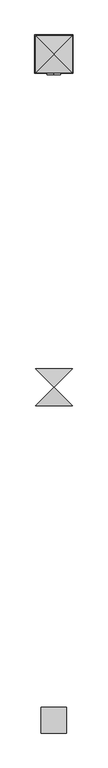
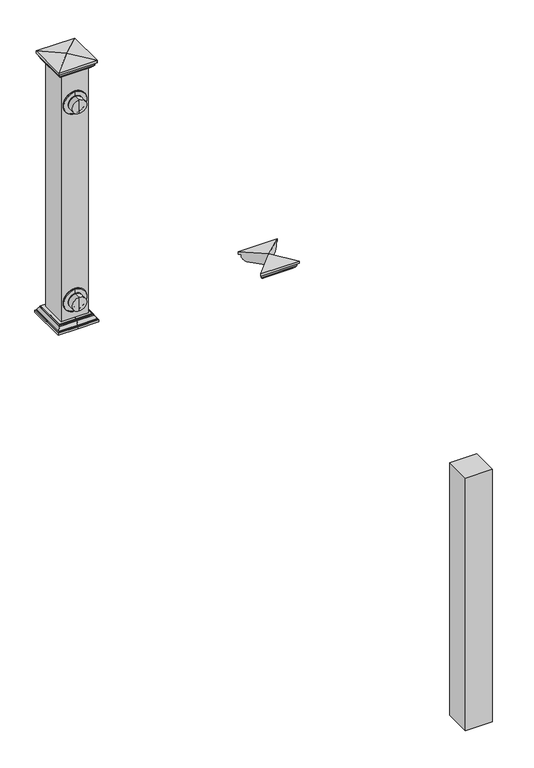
"""IFC4 building model written with IfcOpenShell, lengths in millimetres: railing geometry, RailEasy™ Nautilus Flat."""

from ifc_helpers import new_model, si_unit, point, frame, origin, place, context, project, spatial, polyline, circle_curve, ellipse_curve, trimmed, outline, extrude, source, transform, mapped, element, save
from ifc_brep_helpers import plane_surface, cylinder_surface, revolved_surface, advanced_brep


def railing_723e9c3e(model_context):
    return source(origin(), model_context, "Body", "SolidModel", [
        advanced_brep(
        [(6384.1486243, 2413.2935787, 3040.338587), (6311.1236243, 2340.2685787, 3030.813587), (6457.1736243, 2340.2685787, 3030.813587), (6311.1236243, 2340.2685787, 3021.288587), (6457.1736243, 2340.2685787, 3021.288587), (6317.4736243, 2346.6185787, 3021.288587), (6450.8236243, 2346.6185787, 3021.288587), (6317.4736243, 2346.6185787, 3010.1299834), (6450.8236243, 2346.6185787, 3010.1299834), (6321.144718, 2350.2896725, 3003.826087), (6447.1525305, 2350.2896725, 3003.826087), (6324.319718, 2353.4646725, 3003.826087), (6443.9775305, 2353.4646725, 3003.826087), (6330.669718, 2359.8146725, 2997.476087), (6437.6275305, 2359.8146725, 2997.476087), (6330.669718, 2359.8146725, 2995.888587), (6437.6275305, 2359.8146725, 2995.888587), (6384.1486243, 2413.2935787, 2995.888587)],
        [
            (0, 1),
            (1, 2),
            (2, 0),
            (1, 3),
            (3, 4),
            (4, 2),
            (3, 5),
            (5, 6),
            (6, 4),
            (5, 7),
            (7, 8),
            (8, 6),
            (7, 9, ellipse_curve(frame((6308.444718, 2337.5896725, 3000.651087), z_axis=(-0.7071067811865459, 0.7071067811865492, 0.0), x_axis=(0.707106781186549, 0.7071067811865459, 0.0)), 18.5132723, 13.0908604)),
            (9, 10),
            (10, 8, ellipse_curve(frame((6459.8525305, 2337.5896725, 3000.651087), z_axis=(0.7071067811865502, 0.7071067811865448, 0.0), x_axis=(0.7071067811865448, -0.7071067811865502, 0.0)), 18.5132723, 13.0908604)),
            (9, 11),
            (11, 12),
            (12, 10),
            (11, 13, ellipse_curve(frame((6330.669718, 2359.8146725, 3003.826087), z_axis=(0.7071067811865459, -0.7071067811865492, 0.0), x_axis=(-0.707106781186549, -0.7071067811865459, 0.0)), 8.9802561, 6.35)),
            (13, 14),
            (14, 12, ellipse_curve(frame((6437.6275305, 2359.8146725, 3003.826087), z_axis=(-0.7071067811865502, -0.7071067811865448, 0.0), x_axis=(-0.7071067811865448, 0.7071067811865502, 0.0)), 8.9802561, 6.35)),
            (13, 15),
            (15, 16),
            (16, 14),
            (15, 17),
            (17, 16),
            (0, 17),
        ],
        [
            plane_surface(frame((6266.9469156, 2340.2685787, 3030.813587), z_axis=(0.0, -0.1293391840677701, 0.9916004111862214), x_axis=(1.0, 0.0, 0.0))),
            plane_surface(frame((6266.9469156, 2340.2685787, 3021.288587), z_axis=(0.0, -1.0, 0.0), x_axis=(1.0, 0.0, 0.0))),
            plane_surface(frame((6266.9469156, 2346.6185787, 3021.288587), z_axis=(0.0, 0.0, -1.0), x_axis=(1.0, 0.0, 0.0))),
            plane_surface(frame((6266.9469156, 2346.6185787, 3010.1299834), z_axis=(0.0, -1.0, 0.0), x_axis=(1.0, 0.0, 0.0))),
            revolved_surface(polyline([(6472.943390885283, 2350.6805329, 3000.651087), (6295.353857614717, 2350.6805329, 3000.651087)]), (6493.4422036, 2337.5896725, 3000.651087), (1.0, 0.0, 0.0)),
            plane_surface(frame((6266.9469156, 2353.4646725, 3003.826087), z_axis=(0.0, 0.0, -1.0), x_axis=(1.0, 0.0, 0.0))),
            cylinder_surface(frame((6493.4422036, 2359.8146725, 3003.826087), z_axis=(-1.0, 0.0, 0.0), x_axis=(0.0, 1.0, 0.0)), 6.35),
            plane_surface(frame((6266.9469156, 2359.8146725, 2995.888587), z_axis=(0.0, -1.0, 0.0), x_axis=(1.0, 0.0, 0.0))),
            plane_surface(frame((6266.9469156, 2413.2935787, 2995.888587), z_axis=(0.0, 0.0, -1.0), x_axis=(1.0, 0.0, 0.0))),
            plane_surface(frame((6266.9469156, 2296.09187, 3224.488587), z_axis=(-0.7071067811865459, 0.7071067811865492, 0.0), x_axis=(0.0, 0.0, -1.0))),
            plane_surface(frame((6384.1486243, 2413.2935787, 3224.488587), z_axis=(0.7071067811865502, 0.7071067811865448, 0.0), x_axis=(0.0, 0.0, -1.0))),
        ],
        [
            (0, [[1, 2, 3]]),
            (1, [[4, 5, 6, -2]]),
            (2, [[7, 8, 9, -5]]),
            (3, [[10, 11, 12, -8]]),
            (4, [[13, 14, 15, -11]]),
            (5, [[16, 17, 18, -14]]),
            (6, [[19, 20, 21, -17]]),
            (7, [[22, 23, 24, -20]]),
            (8, [[25, 26, -23]]),
            (9, [[-1, 27, -25, -22, -19, -16, -13, -10, -7, -4]]),
            (10, [[-3, -6, -9, -12, -15, -18, -21, -24, -26, -27]]),
        ],
    ),
        advanced_brep(
        [(6311.1236243, 2486.3185787, 3030.813587), (6384.1486243, 2413.2935787, 3040.338587), (6457.1736243, 2486.3185787, 3030.813587), (6311.1236243, 2486.3185787, 3021.288587), (6457.1736243, 2486.3185787, 3021.288587), (6317.4736243, 2479.9685787, 3021.288587), (6450.8236243, 2479.9685787, 3021.288587), (6317.4736243, 2479.9685787, 3010.1299834), (6450.8236243, 2479.9685787, 3010.1299834), (6321.144718, 2476.297485, 3003.826087), (6447.1525305, 2476.297485, 3003.826087), (6324.319718, 2473.122485, 3003.826087), (6443.9775305, 2473.122485, 3003.826087), (6330.669718, 2466.772485, 2997.476087), (6437.6275305, 2466.772485, 2997.476087), (6330.669718, 2466.772485, 2995.888587), (6437.6275305, 2466.772485, 2995.888587), (6384.1486243, 2413.2935787, 2995.888587)],
        [
            (0, 1),
            (1, 2),
            (2, 0),
            (3, 0),
            (2, 4),
            (4, 3),
            (5, 3),
            (4, 6),
            (6, 5),
            (7, 5),
            (6, 8),
            (8, 7),
            (9, 7, ellipse_curve(frame((6308.444718, 2488.997485, 3000.651087), z_axis=(-0.7071067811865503, -0.7071067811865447, 0.0), x_axis=(0.7071067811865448, -0.7071067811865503, 0.0)), 18.5132723, 13.0908604)),
            (8, 10, ellipse_curve(frame((6459.8525305, 2488.997485, 3000.651087), z_axis=(0.7071067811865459, -0.7071067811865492, 0.0), x_axis=(0.707106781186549, 0.7071067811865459, 0.0)), 18.5132723, 13.0908604)),
            (10, 9),
            (11, 9),
            (10, 12),
            (12, 11),
            (13, 11, ellipse_curve(frame((6330.669718, 2466.772485, 3003.826087), z_axis=(0.7071067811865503, 0.7071067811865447, 0.0), x_axis=(-0.7071067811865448, 0.7071067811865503, 0.0)), 8.9802561, 6.35)),
            (12, 14, ellipse_curve(frame((6437.6275305, 2466.772485, 3003.826087), z_axis=(-0.7071067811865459, 0.7071067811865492, 0.0), x_axis=(-0.707106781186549, -0.7071067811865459, 0.0)), 8.9802561, 6.35)),
            (14, 13),
            (15, 13),
            (14, 16),
            (16, 15),
            (17, 15),
            (16, 17),
            (17, 1),
        ],
        [
            plane_surface(frame((6266.9469156, 2413.2935787, 3040.338587), z_axis=(0.0, 0.12933918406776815, 0.9916004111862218), x_axis=(1.0, 0.0, 0.0))),
            plane_surface(frame((6266.9469156, 2486.3185787, 3030.813587), z_axis=(0.0, 1.0, 0.0), x_axis=(1.0, 0.0, 0.0))),
            plane_surface(frame((6266.9469156, 2486.3185787, 3021.288587), z_axis=(0.0, 0.0, -1.0), x_axis=(1.0, 0.0, 0.0))),
            plane_surface(frame((6266.9469156, 2479.9685787, 3021.288587), z_axis=(0.0, 1.0, 0.0), x_axis=(1.0, 0.0, 0.0))),
            revolved_surface(polyline([(6472.943390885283, 2475.9066245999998, 3000.651087), (6295.353857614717, 2475.9066245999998, 3000.651087)]), (6493.4422036, 2488.997485, 3000.651087), (1.0, 0.0, 0.0)),
            plane_surface(frame((6266.9469156, 2476.297485, 3003.826087), z_axis=(0.0, 0.0, -1.0), x_axis=(1.0, 0.0, 0.0))),
            cylinder_surface(frame((6493.4422036, 2466.772485, 3003.826087), z_axis=(-1.0, 0.0, 0.0), x_axis=(0.0, -1.0, 0.0)), 6.35),
            plane_surface(frame((6266.9469156, 2466.772485, 2997.476087), z_axis=(0.0, 1.0, 0.0), x_axis=(1.0, 0.0, 0.0))),
            plane_surface(frame((6266.9469156, 2466.772485, 2995.888587), z_axis=(0.0, 0.0, -1.0), x_axis=(1.0, 0.0, 0.0))),
            plane_surface(frame((6384.1486243, 2413.2935787, 3224.488587), z_axis=(-0.7071067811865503, -0.7071067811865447, 0.0), x_axis=(0.0, 0.0, -1.0))),
            plane_surface(frame((6493.4422036, 2522.5871581, 3224.488587), z_axis=(0.7071067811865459, -0.7071067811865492, 0.0), x_axis=(0.0, 0.0, -1.0))),
        ],
        [
            (0, [[1, 2, 3]]),
            (1, [[4, -3, 5, 6]]),
            (2, [[7, -6, 8, 9]]),
            (3, [[10, -9, 11, 12]]),
            (4, [[13, -12, 14, 15]]),
            (5, [[16, -15, 17, 18]]),
            (6, [[19, -18, 20, 21]]),
            (7, [[22, -21, 23, 24]]),
            (8, [[25, -24, 26]]),
            (9, [[-1, -4, -7, -10, -13, -16, -19, -22, -25, 27]]),
            (10, [[-2, -27, -26, -23, -20, -17, -14, -11, -8, -5]]),
        ],
    ),
        extrude(outline(polyline([(6434.9486243, 3683.2935787), (6333.3486243, 3683.2935787), (6333.3486243, 3784.8935787), (6434.9486243, 3784.8935787), (6434.9486243, 3683.2935787)])), frame((0.0, 0.0, 1987.826087), z_axis=(0.0, 0.0, 1.0), x_axis=(1.0, 0.0, 0.0)), (0.0, 0.0, 1.0), 1008.0625),
        advanced_brep(
        [(6384.1486243, 3680.1185787, 2044.9956119), (6384.1486243, 3680.1185787, 2133.8956119), (6384.1486243, 3678.5310787, 2132.3081119), (6384.1486243, 3678.5310787, 2046.5831119), (6384.1486243, 3678.5310787, 2118.0206119), (6384.1486243, 3678.5310787, 2060.8706119), (6384.1486243, 3676.9435787, 2116.4331119), (6384.1486243, 3676.9435787, 2062.4581119), (6384.1486243, 3683.2935787, 2089.4456119), (6384.1486243, 3683.2935787, 2133.8956119), (6384.1486243, 3683.2935787, 2044.9956119), (6384.1486243, 3651.5435787, 2062.4581119), (6384.1486243, 3651.5435787, 2116.4331119), (6384.1486243, 3651.5435787, 2089.4456119)],
        [
            (0, 1, circle_curve(frame((6384.1486243, 3680.1185787, 2089.4456119), z_axis=(0.0, -1.0, 0.0), x_axis=(0.0, 0.0, 1.0)), 44.45)),
            (1, 2),
            (2, 3, circle_curve(frame((6384.1486243, 3678.5310787, 2089.4456119), z_axis=(0.0, 1.0, 0.0), x_axis=(0.0, 0.0, 1.0)), 42.8625)),
            (3, 0),
            (1, 0, circle_curve(frame((6384.1486243, 3680.1185787, 2089.4456119), z_axis=(0.0, -1.0, 0.0), x_axis=(0.0, 0.0, 1.0)), 44.45)),
            (3, 2, circle_curve(frame((6384.1486243, 3678.5310787, 2089.4456119), z_axis=(0.0, 1.0, 0.0), x_axis=(0.0, 0.0, 1.0)), 42.8625)),
            (2, 4),
            (4, 5, circle_curve(frame((6384.1486243, 3678.5310787, 2089.4456119), z_axis=(0.0, 1.0, 0.0), x_axis=(0.0, 0.0, 1.0)), 28.575)),
            (5, 3),
            (5, 4, circle_curve(frame((6384.1486243, 3678.5310787, 2089.4456119), z_axis=(0.0, 1.0, 0.0), x_axis=(0.0, 0.0, 1.0)), 28.575)),
            (4, 6, circle_curve(frame((6384.1486243, 3676.9435787, 2118.0206119), z_axis=(-1.0, 0.0, 0.0), x_axis=(0.0, 1.0, 0.0)), 1.5875)),
            (6, 7, circle_curve(frame((6384.1486243, 3676.9435787, 2089.4456119), z_axis=(0.0, 1.0, 0.0), x_axis=(0.0, 0.0, 1.0)), 26.9875)),
            (7, 5, circle_curve(frame((6384.1486243, 3676.9435787, 2060.8706119), z_axis=(-1.0, 0.0, 0.0), x_axis=(0.0, 1.0, 0.0)), 1.5875)),
            (7, 6, circle_curve(frame((6384.1486243, 3676.9435787, 2089.4456119), z_axis=(0.0, 1.0, 0.0), x_axis=(0.0, 0.0, 1.0)), 26.9875)),
            (8, 9),
            (9, 10, circle_curve(frame((6384.1486243, 3683.2935787, 2089.4456119), z_axis=(0.0, 1.0, 0.0), x_axis=(0.0, 0.0, 1.0)), 44.45)),
            (10, 8),
            (10, 9, circle_curve(frame((6384.1486243, 3683.2935787, 2089.4456119), z_axis=(0.0, 1.0, 0.0), x_axis=(0.0, 0.0, 1.0)), 44.45)),
            (9, 1),
            (0, 10),
            (11, 12, circle_curve(frame((6384.1486243, 3651.5435787, 2089.4456119), z_axis=(0.0, -1.0, 0.0), x_axis=(0.0, 0.0, 1.0)), 26.9875)),
            (12, 13),
            (13, 11),
            (12, 11, circle_curve(frame((6384.1486243, 3651.5435787, 2089.4456119), z_axis=(0.0, -1.0, 0.0), x_axis=(0.0, 0.0, 1.0)), 26.9875)),
            (6, 12),
            (11, 7),
        ],
        [
            revolved_surface(polyline([(6384.1486243, 3678.5310787, 2132.3081119), (6384.1486243, 3680.1185787, 2133.8956119)]), (6384.1486243, 3651.5435787, 2089.4456119), (0.0, 1.0, 0.0)),
            plane_surface(frame((6384.1486243, 3678.5310787, 2089.4456119), z_axis=(0.0, -1.0, 0.0), x_axis=(0.0, 0.0, 1.0))),
            revolved_surface(trimmed(ellipse_curve(frame((6384.1486243, 3676.9435787, 2118.0206119), z_axis=(1.0, 0.0, 0.0), x_axis=(0.0, 1.0, 0.0)), 1.5875, 1.5875), [point((6384.1486243, 3676.9435787, 2116.4331119))], [point((6384.1486243, 3678.5310787, 2118.0206119))], True, "CARTESIAN"), (6384.1486243, 3651.5435787, 2089.4456119), (0.0, 1.0, 0.0)),
            plane_surface(frame((6384.1486243, 3683.2935787, 2089.4456119), z_axis=(0.0, 1.0, 0.0), x_axis=(0.0, 0.0, 1.0))),
            cylinder_surface(frame((6384.1486243, 3651.5435787, 2089.4456119), z_axis=(0.0, 1.0, 0.0), x_axis=(0.0, 0.0, 1.0)), 44.45),
            plane_surface(frame((6384.1486243, 3651.5435787, 2089.4456119), z_axis=(0.0, -1.0, 0.0), x_axis=(0.0, 0.0, 1.0))),
            cylinder_surface(frame((6384.1486243, 3651.5435787, 2089.4456119), z_axis=(0.0, 1.0, 0.0), x_axis=(0.0, 0.0, 1.0)), 26.9875),
        ],
        [
            (0, [[1, 2, 3, 4]]),
            (0, [[5, -4, 6, -2]]),
            (1, [[-3, 7, 8, 9]]),
            (1, [[-6, -9, 10, -7]]),
            (2, [[-8, 11, 12, 13]]),
            (2, [[-10, -13, 14, -11]]),
            (3, [[15, 16, 17]]),
            (3, [[-17, 18, -15]]),
            (4, [[-16, 19, -1, 20]]),
            (4, [[-18, -20, -5, -19]]),
            (5, [[21, 22, 23]]),
            (5, [[24, -23, -22]]),
            (6, [[-12, 25, -21, 26]]),
            (6, [[-14, -26, -24, -25]]),
        ],
    ),
        advanced_brep(
        [(6384.1486243, 3680.1185787, 2832.3743799), (6384.1486243, 3680.1185787, 2921.2743799), (6384.1486243, 3678.5310787, 2919.6868799), (6384.1486243, 3678.5310787, 2833.9618799), (6384.1486243, 3678.5310787, 2905.3993799), (6384.1486243, 3678.5310787, 2848.2493799), (6384.1486243, 3676.9435787, 2903.8118799), (6384.1486243, 3676.9435787, 2849.8368799), (6384.1486243, 3683.2935787, 2876.8243799), (6384.1486243, 3683.2935787, 2921.2743799), (6384.1486243, 3683.2935787, 2832.3743799), (6384.1486243, 3651.5435787, 2849.8368799), (6384.1486243, 3651.5435787, 2903.8118799), (6384.1486243, 3651.5435787, 2876.8243799)],
        [
            (0, 1, circle_curve(frame((6384.1486243, 3680.1185787, 2876.8243799), z_axis=(0.0, -1.0, 0.0), x_axis=(0.0, 0.0, 1.0)), 44.45)),
            (1, 2),
            (2, 3, circle_curve(frame((6384.1486243, 3678.5310787, 2876.8243799), z_axis=(0.0, 1.0, 0.0), x_axis=(0.0, 0.0, 1.0)), 42.8625)),
            (3, 0),
            (1, 0, circle_curve(frame((6384.1486243, 3680.1185787, 2876.8243799), z_axis=(0.0, -1.0, 0.0), x_axis=(0.0, 0.0, 1.0)), 44.45)),
            (3, 2, circle_curve(frame((6384.1486243, 3678.5310787, 2876.8243799), z_axis=(0.0, 1.0, 0.0), x_axis=(0.0, 0.0, 1.0)), 42.8625)),
            (2, 4),
            (4, 5, circle_curve(frame((6384.1486243, 3678.5310787, 2876.8243799), z_axis=(0.0, 1.0, 0.0), x_axis=(0.0, 0.0, 1.0)), 28.575)),
            (5, 3),
            (5, 4, circle_curve(frame((6384.1486243, 3678.5310787, 2876.8243799), z_axis=(0.0, 1.0, 0.0), x_axis=(0.0, 0.0, 1.0)), 28.575)),
            (4, 6, circle_curve(frame((6384.1486243, 3676.9435787, 2905.3993799), z_axis=(-1.0, 0.0, 0.0), x_axis=(0.0, 1.0, 0.0)), 1.5875)),
            (6, 7, circle_curve(frame((6384.1486243, 3676.9435787, 2876.8243799), z_axis=(0.0, 1.0, 0.0), x_axis=(0.0, 0.0, 1.0)), 26.9875)),
            (7, 5, circle_curve(frame((6384.1486243, 3676.9435787, 2848.2493799), z_axis=(-1.0, 0.0, 0.0), x_axis=(0.0, 1.0, 0.0)), 1.5875)),
            (7, 6, circle_curve(frame((6384.1486243, 3676.9435787, 2876.8243799), z_axis=(0.0, 1.0, 0.0), x_axis=(0.0, 0.0, 1.0)), 26.9875)),
            (8, 9),
            (9, 10, circle_curve(frame((6384.1486243, 3683.2935787, 2876.8243799), z_axis=(0.0, 1.0, 0.0), x_axis=(0.0, 0.0, 1.0)), 44.45)),
            (10, 8),
            (10, 9, circle_curve(frame((6384.1486243, 3683.2935787, 2876.8243799), z_axis=(0.0, 1.0, 0.0), x_axis=(0.0, 0.0, 1.0)), 44.45)),
            (9, 1),
            (0, 10),
            (11, 12, circle_curve(frame((6384.1486243, 3651.5435787, 2876.8243799), z_axis=(0.0, -1.0, 0.0), x_axis=(0.0, 0.0, 1.0)), 26.9875)),
            (12, 13),
            (13, 11),
            (12, 11, circle_curve(frame((6384.1486243, 3651.5435787, 2876.8243799), z_axis=(0.0, -1.0, 0.0), x_axis=(0.0, 0.0, 1.0)), 26.9875)),
            (6, 12),
            (11, 7),
        ],
        [
            revolved_surface(polyline([(6384.1486243, 3678.5310787, 2919.6868799), (6384.1486243, 3680.1185787, 2921.2743799)]), (6384.1486243, 3683.2935787, 2876.8243799), (0.0, 1.0, 0.0)),
            plane_surface(frame((6384.1486243, 3678.5310787, 2876.8243799), z_axis=(0.0, -1.0, 0.0), x_axis=(0.0, 0.0, 1.0))),
            revolved_surface(trimmed(ellipse_curve(frame((6384.1486243, 3676.9435787, 2905.3993799), z_axis=(1.0, 0.0, 0.0), x_axis=(0.0, 1.0, 0.0)), 1.5875, 1.5875), [point((6384.1486243, 3676.9435787, 2903.8118799))], [point((6384.1486243, 3678.5310787, 2905.3993799))], True, "CARTESIAN"), (6384.1486243, 3683.2935787, 2876.8243799), (0.0, 1.0, 0.0)),
            plane_surface(frame((6384.1486243, 3683.2935787, 2876.8243799), z_axis=(0.0, 1.0, 0.0), x_axis=(0.0, 0.0, 1.0))),
            cylinder_surface(frame((6384.1486243, 3683.2935787, 2876.8243799), z_axis=(0.0, 1.0, 0.0), x_axis=(0.0, 0.0, 1.0)), 44.45),
            plane_surface(frame((6384.1486243, 3651.5435787, 2876.8243799), z_axis=(0.0, -1.0, 0.0), x_axis=(0.0, 0.0, 1.0))),
            cylinder_surface(frame((6384.1486243, 3683.2935787, 2876.8243799), z_axis=(0.0, 1.0, 0.0), x_axis=(0.0, 0.0, 1.0)), 26.9875),
        ],
        [
            (0, [[1, 2, 3, 4]]),
            (0, [[5, -4, 6, -2]]),
            (1, [[-3, 7, 8, 9]]),
            (1, [[-6, -9, 10, -7]]),
            (2, [[-8, 11, 12, 13]]),
            (2, [[-10, -13, 14, -11]]),
            (3, [[15, 16, 17]]),
            (3, [[-17, 18, -15]]),
            (4, [[-16, 19, -1, 20]]),
            (4, [[-18, -20, -5, -19]]),
            (5, [[21, 22, 23]]),
            (5, [[24, -23, -22]]),
            (6, [[-12, 25, -21, 26]]),
            (6, [[-14, -26, -24, -25]]),
        ],
    ),
        advanced_brep(
        [(6384.1486243, 3657.8935787, 1987.826087), (6384.1486243, 3657.8935787, 1995.763587), (6384.1486243, 3661.0685787, 1995.763587), (6384.1486243, 3661.0685787, 1998.938587), (6384.1486243, 3662.6560787, 1998.938587), (6384.1486243, 3669.0060787, 2011.638587), (6384.1486243, 3669.0060787, 2014.813587), (6384.1486243, 3672.1810787, 2014.813587), (6384.1486243, 3672.1810787, 2017.988587), (6384.1486243, 3796.0060787, 2017.988587), (6384.1486243, 3796.0060787, 2014.813587), (6384.1486243, 3799.1810787, 2014.813587), (6384.1486243, 3799.1810787, 2011.638587), (6384.1486243, 3805.5310787, 1998.938587), (6384.1486243, 3807.1185787, 1998.938587), (6384.1486243, 3807.1185787, 1995.763587), (6384.1486243, 3810.2935787, 1995.763587), (6384.1486243, 3810.2935787, 1987.826087), (6446.0611243, 3672.1810787, 2017.988587), (6446.0611243, 3796.0060787, 2017.988587), (6446.0611243, 3672.1810787, 2014.813587), (6446.0611243, 3796.0060787, 2014.813587), (6449.2361243, 3669.0060787, 2014.813587), (6449.2361243, 3799.1810787, 2014.813587), (6449.2361243, 3669.0060787, 2011.638587), (6449.2361243, 3799.1810787, 2011.638587), (6455.5861243, 3662.6560787, 1998.938587), (6455.5861243, 3805.5310787, 1998.938587), (6457.1736243, 3661.0685787, 1998.938587), (6457.1736243, 3807.1185787, 1998.938587), (6457.1736243, 3661.0685787, 1995.763587), (6457.1736243, 3807.1185787, 1995.763587), (6460.3486243, 3657.8935787, 1995.763587), (6460.3486243, 3810.2935787, 1995.763587), (6460.3486243, 3657.8935787, 1987.826087), (6460.3486243, 3810.2935787, 1987.826087)],
        [
            (0, 1),
            (1, 2),
            (2, 3),
            (3, 4),
            (4, 5, circle_curve(frame((6384.1486243, 3688.0560787, 1994.176087), z_axis=(-1.0, 0.0, 0.0), x_axis=(0.0, -1.0, 0.0)), 25.8426277)),
            (5, 6),
            (6, 7),
            (7, 8),
            (8, 9),
            (9, 10),
            (10, 11),
            (11, 12),
            (12, 13, circle_curve(frame((6384.1486243, 3780.1310787, 1994.176087), z_axis=(-1.0, 0.0, 0.0), x_axis=(0.0, -1.0, 0.0)), 25.8426277)),
            (13, 14),
            (14, 15),
            (15, 16),
            (16, 17),
            (17, 0),
            (8, 18),
            (18, 19),
            (19, 9),
            (18, 20),
            (20, 21),
            (21, 19),
            (20, 7),
            (6, 22),
            (22, 23),
            (23, 11),
            (10, 21),
            (22, 24),
            (24, 25),
            (25, 23),
            (24, 26, ellipse_curve(frame((6430.1861243, 3688.0560787, 1994.176087), z_axis=(0.7071067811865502, 0.7071067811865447, 0.0), x_axis=(-0.7071067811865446, 0.7071067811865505, 0.0)), 36.5469946, 25.8426277)),
            (26, 27),
            (27, 25, ellipse_curve(frame((6430.1861243, 3780.1310787, 1994.176087), z_axis=(0.7071067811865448, -0.7071067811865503, 0.0), x_axis=(0.7071067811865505, 0.7071067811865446, 0.0)), 36.5469946, 25.8426277)),
            (26, 4),
            (3, 28),
            (28, 29),
            (29, 14),
            (13, 27),
            (28, 30),
            (30, 31),
            (31, 29),
            (30, 2),
            (1, 32),
            (32, 33),
            (33, 16),
            (15, 31),
            (32, 34),
            (34, 35),
            (35, 33),
            (34, 0),
            (17, 35),
            (5, 24),
            (12, 25),
        ],
        [
            plane_surface(frame((6384.1486243, 3827.2394663, 1987.826087), z_axis=(-1.0, 0.0, 0.0), x_axis=(0.0, -1.0, 0.0))),
            plane_surface(frame((6384.1486243, 3827.2394663, 2017.988587), z_axis=(0.0, 0.0, 1.0), x_axis=(0.0, -1.0, 0.0))),
            plane_surface(frame((6446.0611243, 3827.2394663, 2017.988587), z_axis=(1.0, 0.0, 0.0), x_axis=(0.0, -1.0, 0.0))),
            plane_surface(frame((6446.0611243, 3827.2394663, 2014.813587), z_axis=(0.0, 0.0, 1.0), x_axis=(0.0, -1.0, 0.0))),
            plane_surface(frame((6449.2361243, 3827.2394663, 2014.813587), z_axis=(1.0, 0.0, 0.0), x_axis=(0.0, -1.0, 0.0))),
            cylinder_surface(frame((6430.1861243, 3640.9476912, 1994.176087), z_axis=(0.0, 1.0, 0.0), x_axis=(-1.0, 0.0, 0.0)), 25.8426277),
            plane_surface(frame((6455.5861243, 3827.2394663, 1998.938587), z_axis=(0.0, 0.0, 1.0), x_axis=(0.0, -1.0, 0.0))),
            plane_surface(frame((6457.1736243, 3827.2394663, 1998.938587), z_axis=(1.0, 0.0, 0.0), x_axis=(0.0, -1.0, 0.0))),
            plane_surface(frame((6457.1736243, 3827.2394663, 1995.763587), z_axis=(0.0, 0.0, 1.0), x_axis=(0.0, -1.0, 0.0))),
            plane_surface(frame((6460.3486243, 3827.2394663, 1995.763587), z_axis=(1.0, 0.0, 0.0), x_axis=(0.0, -1.0, 0.0))),
            plane_surface(frame((6460.3486243, 3827.2394663, 1987.826087), z_axis=(0.0, 0.0, -1.0), x_axis=(0.0, -1.0, 0.0))),
            plane_surface(frame((6307.9486243, 3657.8935787, 1995.763587), z_axis=(0.0, -1.0, 0.0), x_axis=(1.0, 0.0, 0.0))),
            plane_surface(frame((6307.9486243, 3672.1810787, 2017.988587), z_axis=(0.0, -1.0, 0.0), x_axis=(1.0, 0.0, 0.0))),
            plane_surface(frame((6307.9486243, 3669.0060787, 2014.813587), z_axis=(0.0, -1.0, 0.0), x_axis=(1.0, 0.0, 0.0))),
            cylinder_surface(frame((6460.3486243, 3688.0560787, 1994.176087), z_axis=(1.0, 0.0, 0.0), x_axis=(0.0, -1.0, 0.0)), 25.8426277),
            plane_surface(frame((6307.9486243, 3661.0685787, 1998.938587), z_axis=(0.0, -1.0, 0.0), x_axis=(1.0, 0.0, 0.0))),
            plane_surface(frame((6307.9486243, 3810.2935787, 1987.826087), z_axis=(0.0, 1.0, 0.0), x_axis=(1.0, 0.0, 0.0))),
            plane_surface(frame((6307.9486243, 3807.1185787, 1995.763587), z_axis=(0.0, 1.0, 0.0), x_axis=(1.0, 0.0, 0.0))),
            cylinder_surface(frame((6460.3486243, 3780.1310787, 1994.176087), z_axis=(1.0, 0.0, 0.0), x_axis=(0.0, -1.0, 0.0)), 25.8426277),
            plane_surface(frame((6307.9486243, 3799.1810787, 2011.638587), z_axis=(0.0, 1.0, 0.0), x_axis=(1.0, 0.0, 0.0))),
            plane_surface(frame((6307.9486243, 3796.0060787, 2014.813587), z_axis=(0.0, 1.0, 0.0), x_axis=(1.0, 0.0, 0.0))),
        ],
        [
            (0, [[1, 2, 3, 4, 5, 6, 7, 8, 9, 10, 11, 12, 13, 14, 15, 16, 17, 18]]),
            (1, [[19, 20, 21, -9]]),
            (2, [[22, 23, 24, -20]]),
            (3, [[25, -7, 26, 27, 28, -11, 29, -23]]),
            (4, [[-27, 30, 31, 32]]),
            (5, [[33, 34, 35, -31]]),
            (6, [[36, -4, 37, 38, 39, -14, 40, -34]]),
            (7, [[-38, 41, 42, 43]]),
            (8, [[44, -2, 45, 46, 47, -16, 48, -42]]),
            (9, [[-46, 49, 50, 51]]),
            (10, [[52, -18, 53, -50]]),
            (11, [[-1, -52, -49, -45]]),
            (12, [[-25, -22, -19, -8]]),
            (13, [[54, -30, -26, -6]]),
            (14, [[-54, -5, -36, -33]]),
            (15, [[-44, -41, -37, -3]]),
            (16, [[-47, -51, -53, -17]]),
            (17, [[-48, -15, -39, -43]]),
            (18, [[-40, -13, 55, -35]]),
            (19, [[-55, -12, -28, -32]]),
            (20, [[-29, -10, -21, -24]]),
        ],
    ),
        advanced_brep(
        [(6384.1486243, 3657.8935787, 1995.763587), (6384.1486243, 3657.8935787, 1987.826087), (6384.1486243, 3810.2935787, 1987.826087), (6384.1486243, 3810.2935787, 1995.763587), (6384.1486243, 3807.1185787, 1995.763587), (6384.1486243, 3807.1185787, 1998.938587), (6384.1486243, 3805.5310787, 1998.938587), (6384.1486243, 3799.1810787, 2011.638587), (6384.1486243, 3799.1810787, 2014.813587), (6384.1486243, 3796.0060787, 2014.813587), (6384.1486243, 3796.0060787, 2017.988587), (6384.1486243, 3672.1810787, 2017.988587), (6384.1486243, 3672.1810787, 2014.813587), (6384.1486243, 3669.0060787, 2014.813587), (6384.1486243, 3669.0060787, 2011.638587), (6384.1486243, 3662.6560787, 1998.938587), (6384.1486243, 3661.0685787, 1998.938587), (6384.1486243, 3661.0685787, 1995.763587), (6322.2361243, 3672.1810787, 2017.988587), (6322.2361243, 3796.0060787, 2017.988587), (6322.2361243, 3672.1810787, 2014.813587), (6322.2361243, 3796.0060787, 2014.813587), (6319.0611243, 3799.1810787, 2014.813587), (6319.0611243, 3669.0060787, 2014.813587), (6319.0611243, 3669.0060787, 2011.638587), (6319.0611243, 3799.1810787, 2011.638587), (6312.7111243, 3662.6560787, 1998.938587), (6312.7111243, 3805.5310787, 1998.938587), (6311.1236243, 3807.1185787, 1998.938587), (6311.1236243, 3661.0685787, 1998.938587), (6311.1236243, 3661.0685787, 1995.763587), (6311.1236243, 3807.1185787, 1995.763587), (6307.9486243, 3810.2935787, 1995.763587), (6307.9486243, 3657.8935787, 1995.763587), (6307.9486243, 3657.8935787, 1987.826087), (6307.9486243, 3810.2935787, 1987.826087)],
        [
            (0, 1),
            (1, 2),
            (2, 3),
            (3, 4),
            (4, 5),
            (5, 6),
            (6, 7, circle_curve(frame((6384.1486243, 3780.1310787, 1994.176087), z_axis=(1.0, 0.0, 0.0), x_axis=(0.0, -1.0, 0.0)), 25.8426277)),
            (7, 8),
            (8, 9),
            (9, 10),
            (10, 11),
            (11, 12),
            (12, 13),
            (13, 14),
            (14, 15, circle_curve(frame((6384.1486243, 3688.0560787, 1994.176087), z_axis=(1.0, 0.0, 0.0), x_axis=(0.0, -1.0, 0.0)), 25.8426277)),
            (15, 16),
            (16, 17),
            (17, 0),
            (18, 11),
            (10, 19),
            (19, 18),
            (20, 18),
            (19, 21),
            (21, 20),
            (12, 20),
            (21, 9),
            (8, 22),
            (22, 23),
            (23, 13),
            (24, 23),
            (22, 25),
            (25, 24),
            (26, 24, ellipse_curve(frame((6338.1111243, 3688.0560787, 1994.176087), z_axis=(-0.7071067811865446, 0.7071067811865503, 0.0), x_axis=(0.7071067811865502, 0.7071067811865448, 0.0)), 36.5469946, 25.8426277)),
            (25, 27, ellipse_curve(frame((6338.1111243, 3780.1310787, 1994.176087), z_axis=(-0.7071067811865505, -0.7071067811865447, 0.0), x_axis=(-0.7071067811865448, 0.7071067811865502, 0.0)), 36.5469946, 25.8426277)),
            (27, 26),
            (15, 26),
            (27, 6),
            (5, 28),
            (28, 29),
            (29, 16),
            (30, 29),
            (28, 31),
            (31, 30),
            (17, 30),
            (31, 4),
            (3, 32),
            (32, 33),
            (33, 0),
            (34, 33),
            (32, 35),
            (35, 34),
            (1, 34),
            (35, 2),
            (24, 14),
            (25, 7),
        ],
        [
            plane_surface(frame((6384.1486243, 3827.2394663, 2017.988587), z_axis=(1.0, 0.0, 0.0), x_axis=(0.0, -1.0, 0.0))),
            plane_surface(frame((6322.2361243, 3827.2394663, 2017.988587), z_axis=(0.0, 0.0, 1.0), x_axis=(0.0, -1.0, 0.0))),
            plane_surface(frame((6322.2361243, 3827.2394663, 2014.813587), z_axis=(-1.0, 0.0, 0.0), x_axis=(0.0, -1.0, 0.0))),
            plane_surface(frame((6319.0611243, 3827.2394663, 2014.813587), z_axis=(0.0, 0.0, 1.0), x_axis=(0.0, -1.0, 0.0))),
            plane_surface(frame((6319.0611243, 3827.2394663, 2011.638587), z_axis=(-1.0, 0.0, 0.0), x_axis=(0.0, -1.0, 0.0))),
            cylinder_surface(frame((6338.1111243, 3640.9476912, 1994.176087), z_axis=(0.0, 1.0, 0.0), x_axis=(1.0, 0.0, 0.0)), 25.8426277),
            plane_surface(frame((6311.1236243, 3827.2394663, 1998.938587), z_axis=(0.0, 0.0, 1.0), x_axis=(0.0, -1.0, 0.0))),
            plane_surface(frame((6311.1236243, 3827.2394663, 1995.763587), z_axis=(-1.0, 0.0, 0.0), x_axis=(0.0, -1.0, 0.0))),
            plane_surface(frame((6307.9486243, 3827.2394663, 1995.763587), z_axis=(0.0, 0.0, 1.0), x_axis=(0.0, -1.0, 0.0))),
            plane_surface(frame((6307.9486243, 3827.2394663, 1987.826087), z_axis=(-1.0, 0.0, 0.0), x_axis=(0.0, -1.0, 0.0))),
            plane_surface(frame((6384.1486243, 3827.2394663, 1987.826087), z_axis=(0.0, 0.0, -1.0), x_axis=(0.0, -1.0, 0.0))),
            plane_surface(frame((6307.9486243, 3657.8935787, 1995.763587), z_axis=(0.0, -1.0, 0.0), x_axis=(1.0, 0.0, 0.0))),
            plane_surface(frame((6307.9486243, 3672.1810787, 2017.988587), z_axis=(0.0, -1.0, 0.0), x_axis=(1.0, 0.0, 0.0))),
            plane_surface(frame((6307.9486243, 3669.0060787, 2014.813587), z_axis=(0.0, -1.0, 0.0), x_axis=(1.0, 0.0, 0.0))),
            cylinder_surface(frame((6460.3486243, 3688.0560787, 1994.176087), z_axis=(1.0, 0.0, 0.0), x_axis=(0.0, -1.0, 0.0)), 25.8426277),
            plane_surface(frame((6307.9486243, 3661.0685787, 1998.938587), z_axis=(0.0, -1.0, 0.0), x_axis=(1.0, 0.0, 0.0))),
            plane_surface(frame((6307.9486243, 3810.2935787, 1987.826087), z_axis=(0.0, 1.0, 0.0), x_axis=(1.0, 0.0, 0.0))),
            plane_surface(frame((6307.9486243, 3807.1185787, 1995.763587), z_axis=(0.0, 1.0, 0.0), x_axis=(1.0, 0.0, 0.0))),
            cylinder_surface(frame((6460.3486243, 3780.1310787, 1994.176087), z_axis=(1.0, 0.0, 0.0), x_axis=(0.0, -1.0, 0.0)), 25.8426277),
            plane_surface(frame((6307.9486243, 3799.1810787, 2011.638587), z_axis=(0.0, 1.0, 0.0), x_axis=(1.0, 0.0, 0.0))),
            plane_surface(frame((6307.9486243, 3796.0060787, 2014.813587), z_axis=(0.0, 1.0, 0.0), x_axis=(1.0, 0.0, 0.0))),
        ],
        [
            (0, [[1, 2, 3, 4, 5, 6, 7, 8, 9, 10, 11, 12, 13, 14, 15, 16, 17, 18]]),
            (1, [[19, -11, 20, 21]]),
            (2, [[22, -21, 23, 24]]),
            (3, [[25, -24, 26, -9, 27, 28, 29, -13]]),
            (4, [[30, -28, 31, 32]]),
            (5, [[33, -32, 34, 35]]),
            (6, [[36, -35, 37, -6, 38, 39, 40, -16]]),
            (7, [[41, -39, 42, 43]]),
            (8, [[44, -43, 45, -4, 46, 47, 48, -18]]),
            (9, [[49, -47, 50, 51]]),
            (10, [[52, -51, 53, -2]]),
            (11, [[-1, -48, -49, -52]]),
            (12, [[-25, -12, -19, -22]]),
            (13, [[54, -14, -29, -30]]),
            (14, [[-54, -33, -36, -15]]),
            (15, [[-44, -17, -40, -41]]),
            (16, [[-46, -3, -53, -50]]),
            (17, [[-45, -42, -38, -5]]),
            (18, [[-37, -34, 55, -7]]),
            (19, [[-55, -31, -27, -8]]),
            (20, [[-26, -23, -20, -10]]),
        ],
    ),
        advanced_brep(
        [(6311.1236243, 3661.0685787, 3030.813587), (6384.1486243, 3734.0935787, 3040.338587), (6311.1236243, 3807.1185787, 3030.813587), (6311.1236243, 3661.0685787, 3021.288587), (6311.1236243, 3807.1185787, 3021.288587), (6317.4736243, 3667.4185787, 3021.288587), (6317.4736243, 3800.7685787, 3021.288587), (6317.4736243, 3667.4185787, 3010.1299834), (6317.4736243, 3800.7685787, 3010.1299834), (6321.144718, 3671.0896725, 3003.826087), (6321.144718, 3797.097485, 3003.826087), (6324.319718, 3674.2646725, 3003.826087), (6324.319718, 3793.922485, 3003.826087), (6330.669718, 3680.6146725, 2997.476087), (6330.669718, 3787.572485, 2997.476087), (6330.669718, 3680.6146725, 2995.888587), (6330.669718, 3787.572485, 2995.888587), (6384.1486243, 3734.0935787, 2995.888587)],
        [
            (0, 1),
            (1, 2),
            (2, 0),
            (3, 0),
            (2, 4),
            (4, 3),
            (5, 3),
            (4, 6),
            (6, 5),
            (7, 5),
            (6, 8),
            (8, 7),
            (9, 7, ellipse_curve(frame((6308.444718, 3658.3896725, 3000.651087), z_axis=(0.7071067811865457, -0.7071067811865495, 0.0), x_axis=(-0.7071067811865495, -0.7071067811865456, 0.0)), 18.5132723, 13.0908604)),
            (8, 10, ellipse_curve(frame((6308.444718, 3809.797485, 3000.651087), z_axis=(0.7071067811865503, 0.7071067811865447, 0.0), x_axis=(0.7071067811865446, -0.7071067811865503, 0.0)), 18.5132723, 13.0908604)),
            (10, 9),
            (11, 9),
            (10, 12),
            (12, 11),
            (13, 11, ellipse_curve(frame((6330.669718, 3680.6146725, 3003.826087), z_axis=(-0.7071067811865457, 0.7071067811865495, 0.0), x_axis=(0.7071067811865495, 0.7071067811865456, 0.0)), 8.9802561, 6.35)),
            (12, 14, ellipse_curve(frame((6330.669718, 3787.572485, 3003.826087), z_axis=(-0.7071067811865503, -0.7071067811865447, 0.0), x_axis=(-0.7071067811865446, 0.7071067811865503, 0.0)), 8.9802561, 6.35)),
            (14, 13),
            (15, 13),
            (14, 16),
            (16, 15),
            (17, 15),
            (16, 17),
            (17, 1),
        ],
        [
            plane_surface(frame((6311.1236243, 3851.2952874, 3030.813587), z_axis=(-0.12933918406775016, 0.0, 0.9916004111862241), x_axis=(0.0, -1.0, 0.0))),
            plane_surface(frame((6311.1236243, 3851.2952874, 3021.288587), z_axis=(-1.0, 0.0, 0.0), x_axis=(0.0, -1.0, 0.0))),
            plane_surface(frame((6317.4736243, 3851.2952874, 3021.288587), z_axis=(0.0, 0.0, -1.0), x_axis=(0.0, -1.0, 0.0))),
            plane_surface(frame((6317.4736243, 3851.2952874, 3010.1299834), z_axis=(-1.0, 0.0, 0.0), x_axis=(0.0, -1.0, 0.0))),
            revolved_surface(polyline([(6321.535578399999, 3645.298812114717, 3000.651087), (6321.535578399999, 3822.888345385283, 3000.651087)]), (6308.444718, 3624.7999994, 3000.651087), (0.0, -1.0, 0.0)),
            plane_surface(frame((6324.319718, 3851.2952874, 3003.826087), z_axis=(0.0, 0.0, -1.0), x_axis=(0.0, -1.0, 0.0))),
            cylinder_surface(frame((6330.669718, 3624.7999994, 3003.826087), z_axis=(0.0, 1.0, 0.0), x_axis=(1.0, 0.0, 0.0)), 6.35),
            plane_surface(frame((6330.669718, 3851.2952874, 2995.888587), z_axis=(-1.0, 0.0, 0.0), x_axis=(0.0, -1.0, 0.0))),
            plane_surface(frame((6384.1486243, 3851.2952874, 2995.888587), z_axis=(0.0, 0.0, -1.0), x_axis=(0.0, -1.0, 0.0))),
            plane_surface(frame((6384.1486243, 3734.0935787, 3224.488587), z_axis=(0.7071067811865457, -0.7071067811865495, 0.0), x_axis=(0.0, 0.0, -1.0))),
            plane_surface(frame((6250.7986243, 3867.4435787, 3224.488587), z_axis=(0.7071067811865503, 0.7071067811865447, 0.0), x_axis=(0.0, 0.0, -1.0))),
        ],
        [
            (0, [[1, 2, 3]]),
            (1, [[4, -3, 5, 6]]),
            (2, [[7, -6, 8, 9]]),
            (3, [[10, -9, 11, 12]]),
            (4, [[13, -12, 14, 15]]),
            (5, [[16, -15, 17, 18]]),
            (6, [[19, -18, 20, 21]]),
            (7, [[22, -21, 23, 24]]),
            (8, [[25, -24, 26]]),
            (9, [[-1, -4, -7, -10, -13, -16, -19, -22, -25, 27]]),
            (10, [[-2, -27, -26, -23, -20, -17, -14, -11, -8, -5]]),
        ],
    ),
        advanced_brep(
        [(6384.1486243, 3734.0935787, 3040.338587), (6457.1736243, 3661.0685787, 3030.813587), (6457.1736243, 3807.1185787, 3030.813587), (6457.1736243, 3661.0685787, 3021.288587), (6457.1736243, 3807.1185787, 3021.288587), (6450.8236243, 3667.4185787, 3021.288587), (6450.8236243, 3800.7685787, 3021.288587), (6450.8236243, 3667.4185787, 3010.1299834), (6450.8236243, 3800.7685787, 3010.1299834), (6447.1525305, 3671.0896725, 3003.826087), (6447.1525305, 3797.097485, 3003.826087), (6443.9775305, 3674.2646725, 3003.826087), (6443.9775305, 3793.922485, 3003.826087), (6437.6275305, 3680.6146725, 2997.476087), (6437.6275305, 3787.572485, 2997.476087), (6437.6275305, 3680.6146725, 2995.888587), (6437.6275305, 3787.572485, 2995.888587), (6384.1486243, 3734.0935787, 2995.888587)],
        [
            (0, 1),
            (1, 2),
            (2, 0),
            (1, 3),
            (3, 4),
            (4, 2),
            (3, 5),
            (5, 6),
            (6, 4),
            (5, 7),
            (7, 8),
            (8, 6),
            (7, 9, ellipse_curve(frame((6459.8525305, 3658.3896725, 3000.651087), z_axis=(-0.7071067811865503, -0.7071067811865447, 0.0), x_axis=(0.7071067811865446, -0.7071067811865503, 0.0)), 18.5132723, 13.0908604)),
            (9, 10),
            (10, 8, ellipse_curve(frame((6459.8525305, 3809.797485, 3000.651087), z_axis=(-0.7071067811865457, 0.7071067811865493, 0.0), x_axis=(-0.7071067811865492, -0.7071067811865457, 0.0)), 18.5132723, 13.0908604)),
            (9, 11),
            (11, 12),
            (12, 10),
            (11, 13, ellipse_curve(frame((6437.6275305, 3680.6146725, 3003.826087), z_axis=(0.7071067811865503, 0.7071067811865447, 0.0), x_axis=(-0.7071067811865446, 0.7071067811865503, 0.0)), 8.9802561, 6.35)),
            (13, 14),
            (14, 12, ellipse_curve(frame((6437.6275305, 3787.572485, 3003.826087), z_axis=(0.7071067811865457, -0.7071067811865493, 0.0), x_axis=(0.7071067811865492, 0.7071067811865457, 0.0)), 8.9802561, 6.35)),
            (13, 15),
            (15, 16),
            (16, 14),
            (15, 17),
            (17, 16),
            (0, 17),
        ],
        [
            plane_surface(frame((6384.1486243, 3851.2952874, 3040.338587), z_axis=(0.12933918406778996, 0.0, 0.9916004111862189), x_axis=(0.0, -1.0, 0.0))),
            plane_surface(frame((6457.1736243, 3851.2952874, 3030.813587), z_axis=(1.0, 0.0, 0.0), x_axis=(0.0, -1.0, 0.0))),
            plane_surface(frame((6457.1736243, 3851.2952874, 3021.288587), z_axis=(0.0, 0.0, -1.0), x_axis=(0.0, -1.0, 0.0))),
            plane_surface(frame((6450.8236243, 3851.2952874, 3021.288587), z_axis=(1.0, 0.0, 0.0), x_axis=(0.0, -1.0, 0.0))),
            revolved_surface(polyline([(6446.761670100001, 3645.298812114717, 3000.651087), (6446.761670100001, 3822.888345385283, 3000.651087)]), (6459.8525305, 3624.7999994, 3000.651087), (0.0, -1.0, 0.0)),
            plane_surface(frame((6447.1525305, 3851.2952874, 3003.826087), z_axis=(0.0, 0.0, -1.0), x_axis=(0.0, -1.0, 0.0))),
            cylinder_surface(frame((6437.6275305, 3624.7999994, 3003.826087), z_axis=(0.0, 1.0, 0.0), x_axis=(-1.0, 0.0, 0.0)), 6.35),
            plane_surface(frame((6437.6275305, 3851.2952874, 2997.476087), z_axis=(1.0, 0.0, 0.0), x_axis=(0.0, -1.0, 0.0))),
            plane_surface(frame((6437.6275305, 3851.2952874, 2995.888587), z_axis=(0.0, 0.0, -1.0), x_axis=(0.0, -1.0, 0.0))),
            plane_surface(frame((6493.4422036, 3624.7999994, 3224.488587), z_axis=(-0.7071067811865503, -0.7071067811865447, 0.0), x_axis=(0.0, 0.0, -1.0))),
            plane_surface(frame((6384.1486243, 3734.0935787, 3224.488587), z_axis=(-0.7071067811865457, 0.7071067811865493, 0.0), x_axis=(0.0, 0.0, -1.0))),
        ],
        [
            (0, [[1, 2, 3]]),
            (1, [[4, 5, 6, -2]]),
            (2, [[7, 8, 9, -5]]),
            (3, [[10, 11, 12, -8]]),
            (4, [[13, 14, 15, -11]]),
            (5, [[16, 17, 18, -14]]),
            (6, [[19, 20, 21, -17]]),
            (7, [[22, 23, 24, -20]]),
            (8, [[25, 26, -23]]),
            (9, [[-1, 27, -25, -22, -19, -16, -13, -10, -7, -4]]),
            (10, [[-3, -6, -9, -12, -15, -18, -21, -24, -26, -27]]),
        ],
    ),
        advanced_brep(
        [(6384.1486243, 3734.0935787, 3040.338587), (6311.1236243, 3661.0685787, 3030.813587), (6457.1736243, 3661.0685787, 3030.813587), (6311.1236243, 3661.0685787, 3021.288587), (6457.1736243, 3661.0685787, 3021.288587), (6317.4736243, 3667.4185787, 3021.288587), (6450.8236243, 3667.4185787, 3021.288587), (6317.4736243, 3667.4185787, 3010.1299834), (6450.8236243, 3667.4185787, 3010.1299834), (6321.144718, 3671.0896725, 3003.826087), (6447.1525305, 3671.0896725, 3003.826087), (6324.319718, 3674.2646725, 3003.826087), (6443.9775305, 3674.2646725, 3003.826087), (6330.669718, 3680.6146725, 2997.476087), (6437.6275305, 3680.6146725, 2997.476087), (6330.669718, 3680.6146725, 2995.888587), (6437.6275305, 3680.6146725, 2995.888587), (6384.1486243, 3734.0935787, 2995.888587)],
        [
            (0, 1),
            (1, 2),
            (2, 0),
            (1, 3),
            (3, 4),
            (4, 2),
            (3, 5),
            (5, 6),
            (6, 4),
            (5, 7),
            (7, 8),
            (8, 6),
            (7, 9, ellipse_curve(frame((6308.444718, 3658.3896725, 3000.651087), z_axis=(-0.7071067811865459, 0.7071067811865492, 0.0), x_axis=(0.707106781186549, 0.7071067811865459, 0.0)), 18.5132723, 13.0908604)),
            (9, 10),
            (10, 8, ellipse_curve(frame((6459.8525305, 3658.3896725, 3000.651087), z_axis=(0.7071067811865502, 0.7071067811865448, 0.0), x_axis=(0.7071067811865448, -0.7071067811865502, 0.0)), 18.5132723, 13.0908604)),
            (9, 11),
            (11, 12),
            (12, 10),
            (11, 13, ellipse_curve(frame((6330.669718, 3680.6146725, 3003.826087), z_axis=(0.7071067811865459, -0.7071067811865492, 0.0), x_axis=(-0.707106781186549, -0.7071067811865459, 0.0)), 8.9802561, 6.35)),
            (13, 14),
            (14, 12, ellipse_curve(frame((6437.6275305, 3680.6146725, 3003.826087), z_axis=(-0.7071067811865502, -0.7071067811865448, 0.0), x_axis=(-0.7071067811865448, 0.7071067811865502, 0.0)), 8.9802561, 6.35)),
            (13, 15),
            (15, 16),
            (16, 14),
            (15, 17),
            (17, 16),
            (0, 17),
        ],
        [
            plane_surface(frame((6266.9469156, 3661.0685787, 3030.813587), z_axis=(0.0, -0.1293391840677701, 0.9916004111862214), x_axis=(1.0, 0.0, 0.0))),
            plane_surface(frame((6266.9469156, 3661.0685787, 3021.288587), z_axis=(0.0, -1.0, 0.0), x_axis=(1.0, 0.0, 0.0))),
            plane_surface(frame((6266.9469156, 3667.4185787, 3021.288587), z_axis=(0.0, 0.0, -1.0), x_axis=(1.0, 0.0, 0.0))),
            plane_surface(frame((6266.9469156, 3667.4185787, 3010.1299834), z_axis=(0.0, -1.0, 0.0), x_axis=(1.0, 0.0, 0.0))),
            revolved_surface(polyline([(6472.943390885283, 3671.4805329, 3000.651087), (6295.353857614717, 3671.4805329, 3000.651087)]), (6493.4422036, 3658.3896725, 3000.651087), (1.0, 0.0, 0.0)),
            plane_surface(frame((6266.9469156, 3674.2646725, 3003.826087), z_axis=(0.0, 0.0, -1.0), x_axis=(1.0, 0.0, 0.0))),
            cylinder_surface(frame((6493.4422036, 3680.6146725, 3003.826087), z_axis=(-1.0, 0.0, 0.0), x_axis=(0.0, 1.0, 0.0)), 6.35),
            plane_surface(frame((6266.9469156, 3680.6146725, 2995.888587), z_axis=(0.0, -1.0, 0.0), x_axis=(1.0, 0.0, 0.0))),
            plane_surface(frame((6266.9469156, 3734.0935787, 2995.888587), z_axis=(0.0, 0.0, -1.0), x_axis=(1.0, 0.0, 0.0))),
            plane_surface(frame((6266.9469156, 3616.89187, 3224.488587), z_axis=(-0.7071067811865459, 0.7071067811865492, 0.0), x_axis=(0.0, 0.0, -1.0))),
            plane_surface(frame((6384.1486243, 3734.0935787, 3224.488587), z_axis=(0.7071067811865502, 0.7071067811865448, 0.0), x_axis=(0.0, 0.0, -1.0))),
        ],
        [
            (0, [[1, 2, 3]]),
            (1, [[4, 5, 6, -2]]),
            (2, [[7, 8, 9, -5]]),
            (3, [[10, 11, 12, -8]]),
            (4, [[13, 14, 15, -11]]),
            (5, [[16, 17, 18, -14]]),
            (6, [[19, 20, 21, -17]]),
            (7, [[22, 23, 24, -20]]),
            (8, [[25, 26, -23]]),
            (9, [[-1, 27, -25, -22, -19, -16, -13, -10, -7, -4]]),
            (10, [[-3, -6, -9, -12, -15, -18, -21, -24, -26, -27]]),
        ],
    ),
        advanced_brep(
        [(6311.1236243, 3807.1185787, 3030.813587), (6384.1486243, 3734.0935787, 3040.338587), (6457.1736243, 3807.1185787, 3030.813587), (6311.1236243, 3807.1185787, 3021.288587), (6457.1736243, 3807.1185787, 3021.288587), (6317.4736243, 3800.7685787, 3021.288587), (6450.8236243, 3800.7685787, 3021.288587), (6317.4736243, 3800.7685787, 3010.1299834), (6450.8236243, 3800.7685787, 3010.1299834), (6321.144718, 3797.097485, 3003.826087), (6447.1525305, 3797.097485, 3003.826087), (6324.319718, 3793.922485, 3003.826087), (6443.9775305, 3793.922485, 3003.826087), (6330.669718, 3787.572485, 2997.476087), (6437.6275305, 3787.572485, 2997.476087), (6330.669718, 3787.572485, 2995.888587), (6437.6275305, 3787.572485, 2995.888587), (6384.1486243, 3734.0935787, 2995.888587)],
        [
            (0, 1),
            (1, 2),
            (2, 0),
            (3, 0),
            (2, 4),
            (4, 3),
            (5, 3),
            (4, 6),
            (6, 5),
            (7, 5),
            (6, 8),
            (8, 7),
            (9, 7, ellipse_curve(frame((6308.444718, 3809.797485, 3000.651087), z_axis=(-0.7071067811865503, -0.7071067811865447, 0.0), x_axis=(0.7071067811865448, -0.7071067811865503, 0.0)), 18.5132723, 13.0908604)),
            (8, 10, ellipse_curve(frame((6459.8525305, 3809.797485, 3000.651087), z_axis=(0.7071067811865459, -0.7071067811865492, 0.0), x_axis=(0.707106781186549, 0.7071067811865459, 0.0)), 18.5132723, 13.0908604)),
            (10, 9),
            (11, 9),
            (10, 12),
            (12, 11),
            (13, 11, ellipse_curve(frame((6330.669718, 3787.572485, 3003.826087), z_axis=(0.7071067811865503, 0.7071067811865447, 0.0), x_axis=(-0.7071067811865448, 0.7071067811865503, 0.0)), 8.9802561, 6.35)),
            (12, 14, ellipse_curve(frame((6437.6275305, 3787.572485, 3003.826087), z_axis=(-0.7071067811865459, 0.7071067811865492, 0.0), x_axis=(-0.707106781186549, -0.7071067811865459, 0.0)), 8.9802561, 6.35)),
            (14, 13),
            (15, 13),
            (14, 16),
            (16, 15),
            (17, 15),
            (16, 17),
            (17, 1),
        ],
        [
            plane_surface(frame((6266.9469156, 3734.0935787, 3040.338587), z_axis=(0.0, 0.12933918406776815, 0.9916004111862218), x_axis=(1.0, 0.0, 0.0))),
            plane_surface(frame((6266.9469156, 3807.1185787, 3030.813587), z_axis=(0.0, 1.0, 0.0), x_axis=(1.0, 0.0, 0.0))),
            plane_surface(frame((6266.9469156, 3807.1185787, 3021.288587), z_axis=(0.0, 0.0, -1.0), x_axis=(1.0, 0.0, 0.0))),
            plane_surface(frame((6266.9469156, 3800.7685787, 3021.288587), z_axis=(0.0, 1.0, 0.0), x_axis=(1.0, 0.0, 0.0))),
            revolved_surface(polyline([(6472.943390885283, 3796.7066246, 3000.651087), (6295.353857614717, 3796.7066246, 3000.651087)]), (6493.4422036, 3809.797485, 3000.651087), (1.0, 0.0, 0.0)),
            plane_surface(frame((6266.9469156, 3797.097485, 3003.826087), z_axis=(0.0, 0.0, -1.0), x_axis=(1.0, 0.0, 0.0))),
            cylinder_surface(frame((6493.4422036, 3787.572485, 3003.826087), z_axis=(-1.0, 0.0, 0.0), x_axis=(0.0, -1.0, 0.0)), 6.35),
            plane_surface(frame((6266.9469156, 3787.572485, 2997.476087), z_axis=(0.0, 1.0, 0.0), x_axis=(1.0, 0.0, 0.0))),
            plane_surface(frame((6266.9469156, 3787.572485, 2995.888587), z_axis=(0.0, 0.0, -1.0), x_axis=(1.0, 0.0, 0.0))),
            plane_surface(frame((6384.1486243, 3734.0935787, 3224.488587), z_axis=(-0.7071067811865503, -0.7071067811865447, 0.0), x_axis=(0.0, 0.0, -1.0))),
            plane_surface(frame((6493.4422036, 3843.3871581, 3224.488587), z_axis=(0.7071067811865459, -0.7071067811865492, 0.0), x_axis=(0.0, 0.0, -1.0))),
        ],
        [
            (0, [[1, 2, 3]]),
            (1, [[4, -3, 5, 6]]),
            (2, [[7, -6, 8, 9]]),
            (3, [[10, -9, 11, 12]]),
            (4, [[13, -12, 14, 15]]),
            (5, [[16, -15, 17, 18]]),
            (6, [[19, -18, 20, 21]]),
            (7, [[22, -21, 23, 24]]),
            (8, [[25, -24, 26]]),
            (9, [[-1, -4, -7, -10, -13, -16, -19, -22, -25, 27]]),
            (10, [[-2, -27, -26, -23, -20, -17, -14, -11, -8, -5]]),
        ],
    ),
        extrude(outline(polyline([(6434.9486243, 1041.6935787), (6333.3486243, 1041.6935787), (6333.3486243, 1143.2935787), (6434.9486243, 1143.2935787), (6434.9486243, 1041.6935787)])), frame((0.0, 0.0, 1987.826087), z_axis=(0.0, 0.0, 1.0), x_axis=(1.0, 0.0, 0.0)), (0.0, 0.0, 1.0), 1008.0625),
    ])


if __name__ == "__main__":
    model = new_model("IFC4")
    model_context = context("Model", 3, world=origin())
    ifc_project = project(units=[si_unit("LENGTHUNIT", "METRE", prefix="MILLI")], contexts=[model_context])
    site = spatial("IfcSite", under=ifc_project)
    building = spatial("IfcBuilding", under=site)
    placement = place(None, origin())
    railing_shape = railing_723e9c3e(model_context)
    element("IfcRailing", 1, ObjectType="RailEasy™ Nautilus Flat", at=placement, inside=building, context=model_context, shape_type="MappedRepresentation", body=[
        mapped(railing_shape, transform((0.0, 0.0, 0.0), x_axis=(1.0, 0.0, 0.0), y_axis=(0.0, 1.0, 0.0), z_axis=(0.0, 0.0, 1.0))),
    ])
    save(model, "model.ifc")
